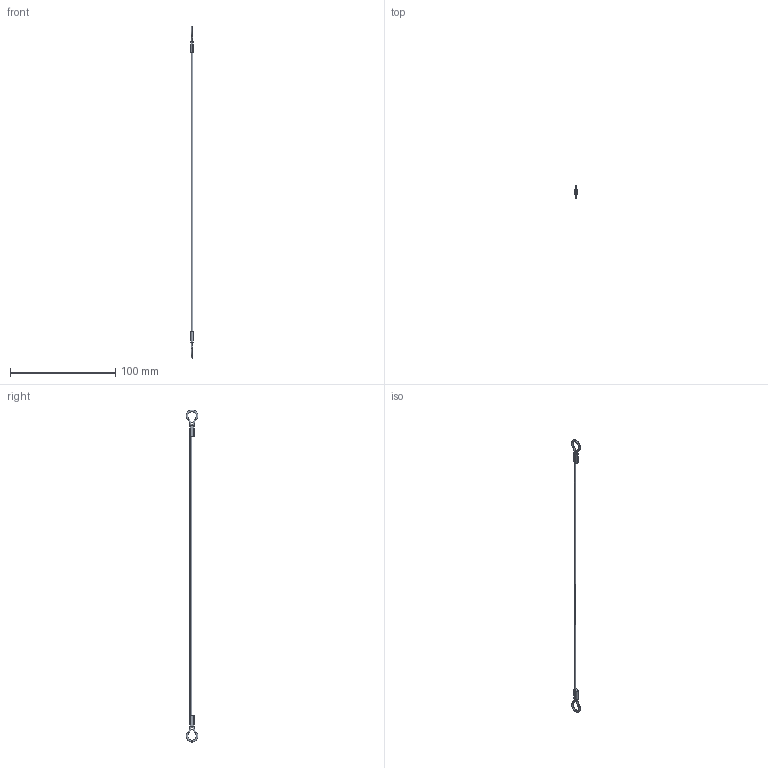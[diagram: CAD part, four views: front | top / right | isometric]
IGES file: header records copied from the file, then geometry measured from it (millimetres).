
Start section: SolidWorks IGES file using analytic representation for surfaces
Global section: file name: C:\Users\ianosborn\Desktop\LA1065_v2\LA1065_v2_20260320_IGES\LA1065.I04-303B1.igs; native system: SolidWorks 2019; preprocessor: SolidWorks 2019; author: IanOsborn; date: 260323.154227; units: millimetre
Bounding box: 2.4 x 11.18 x 315.97 mm (x, y, z)
Surface area: 1957.2 mm2 (no closed solid volume)
Topology: 0 solids, 0 shells, 30 faces, 336 edges, 336 vertices
Faces by surface type: bspline 22, revolution 8
